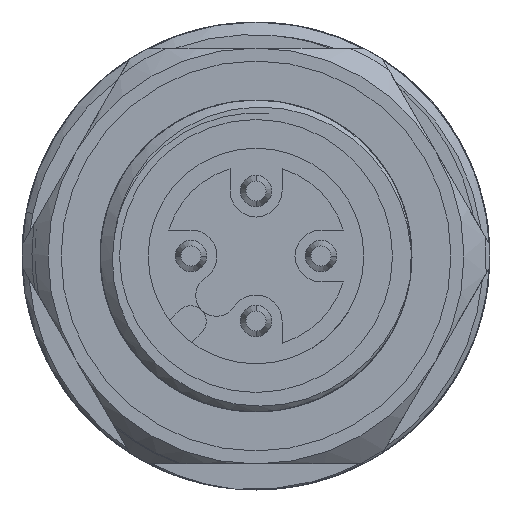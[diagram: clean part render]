
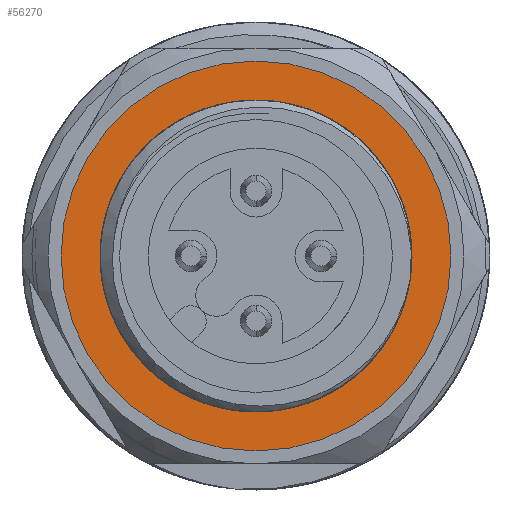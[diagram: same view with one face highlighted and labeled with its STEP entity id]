
A CAD part, front view. The second image highlights one B-rep face of the part: STEP entity #56270.
In plain terms, the highlighted planar face has unit normal (0, -1, 0) as drawn and (1, 0, 0) by its records, which use the part's own axes.
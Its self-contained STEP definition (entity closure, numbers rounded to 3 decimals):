
#54600=CARTESIAN_POINT('',(1.3,0.,0.));
#54601=DIRECTION('',(-1.,0.,0.));
#54602=DIRECTION('',(0.,0.,-1.));
#54603=AXIS2_PLACEMENT_3D('',#54600,#54601,#54602);
#54615=CARTESIAN_POINT('',(1.3,0.,0.));
#54616=DIRECTION('',(1.,0.,0.));
#54617=DIRECTION('',(0.,0.,-1.));
#54618=AXIS2_PLACEMENT_3D('',#54615,#54616,#54617);
#54630=CARTESIAN_POINT('',(1.3,0.,0.));
#54631=DIRECTION('',(-1.,0.,0.));
#54632=DIRECTION('',(0.,0.,-1.));
#54633=AXIS2_PLACEMENT_3D('',#54630,#54631,#54632);
#54638=CARTESIAN_POINT('',(1.3,0.,0.));
#54639=DIRECTION('',(1.,0.,0.));
#54640=DIRECTION('',(0.,0.,-1.));
#54641=AXIS2_PLACEMENT_3D('',#54638,#54639,#54640);
#55070=CARTESIAN_POINT('',(1.3,0.,-5.));
#55072=VERTEX_POINT('',#55070);
#55073=CARTESIAN_POINT('',(1.3,0.,-7.5));
#55075=VERTEX_POINT('',#55073);
#55086=CARTESIAN_POINT('',(1.3,0.,5.));
#55088=VERTEX_POINT('',#55086);
#55089=CARTESIAN_POINT('',(1.3,0.,7.5));
#55091=VERTEX_POINT('',#55089);
#56255=CARTESIAN_POINT('',(1.3,0.,0.));
#56256=DIRECTION('',(-1.,0.,0.));
#56257=DIRECTION('',(0.,0.,-1.));
#56258=AXIS2_PLACEMENT_3D('',#56255,#56256,#56257);
#56259=PLANE('',#56258);
#56260=ORIENTED_EDGE('',*,*,#56248,.F.);
#56261=ORIENTED_EDGE('',*,*,#56237,.T.);
#56262=EDGE_LOOP('',(#56260,#56261));
#56263=FACE_OUTER_BOUND('',#56262,.F.);
#56265=ORIENTED_EDGE('',*,*,#56264,.F.);
#56267=ORIENTED_EDGE('',*,*,#56266,.T.);
#56268=EDGE_LOOP('',(#56265,#56267));
#56269=FACE_BOUND('',#56268,.F.);
#54604=CIRCLE('',#54603,7.5);
#54619=CIRCLE('',#54618,7.5);
#54634=CIRCLE('',#54633,5.);
#54642=CIRCLE('',#54641,5.);
#56237=EDGE_CURVE('',#55075,#55091,#54604,.T.);
#56248=EDGE_CURVE('',#55075,#55091,#54619,.T.);
#56264=EDGE_CURVE('',#55072,#55088,#54634,.T.);
#56266=EDGE_CURVE('',#55072,#55088,#54642,.T.);
#56270=ADVANCED_FACE('',(#56263,#56269),#56259,.F.);
